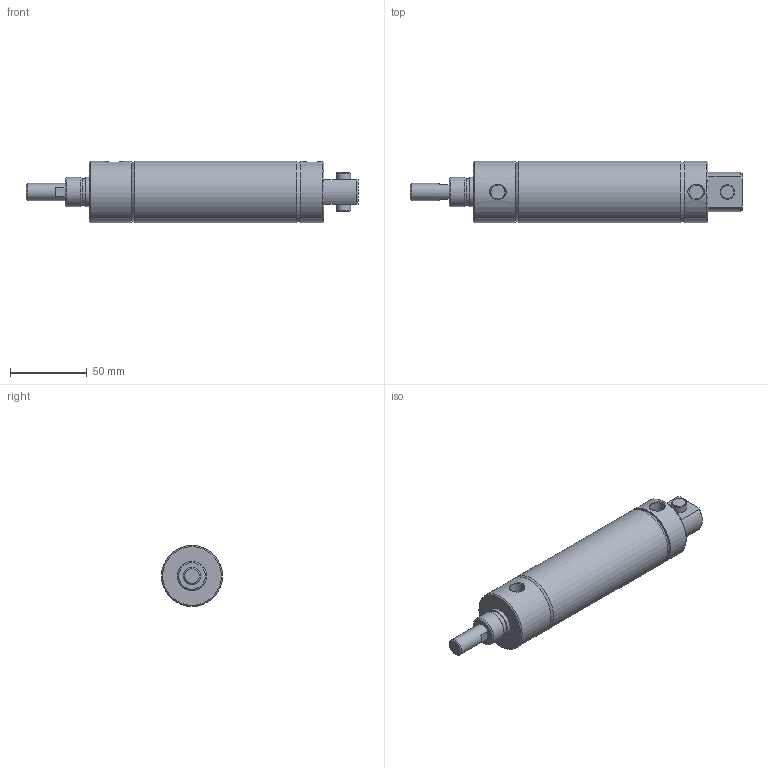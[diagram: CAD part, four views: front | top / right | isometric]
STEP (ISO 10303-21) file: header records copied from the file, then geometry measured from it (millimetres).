
FILE_DESCRIPTION( ( 'STEP AP214' ), '1' );
FILE_NAME( 'p:/temp/worker_460/temp/exporttempdir_1388_116_xGaJY/format_0/1500D02-03A-03.stp', '2020-05-07T18:42:29', ( 'License CC BY-ND 4.0' ), ( 'CADENAS' ), ' ', 'PARTsolutions', ' ' );
FILE_SCHEMA( ( 'AUTOMOTIVE_DESIGN { 1 0 10303 214 1 1 1 1 }' ) );
Length unit declared in the file: inch
Products named in the file (3): 1500D02-03A-03; _1500D02-03A-0300A00A0b; _1500D02-03A-0300A00A0r
Assembly tree (2 placements, depth 2):
  1500D02-03A-03
    _1500D02-03A-0300A00A0b
    _1500D02-03A-0300A00A0r
Bounding box: 215.9 x 39.7 x 39.7 mm (x, y, z)
Volume: 122953.2 mm3; surface area: 52406.7 mm2
Topology: 2 solids, 2 shells, 55 faces, 99 edges, 63 vertices
Faces by surface type: plane 25, cylinder 15, cone 15
Full cylindrical faces by diameter (mm): 9.525 x2, 11.125 x3, 17.178 x1, 19.05 x2, 38.1 x2, 39.7 x3
Entity records: 1834 total; most frequent: CARTESIAN_POINT 348, DIRECTION 228, ORIENTED_EDGE 140, AXIS2_PLACEMENT_3D 106, EDGE_LOOP 96, EDGE_CURVE 70, FACE_OUTER_BOUND 68, VERTEX_POINT 60
